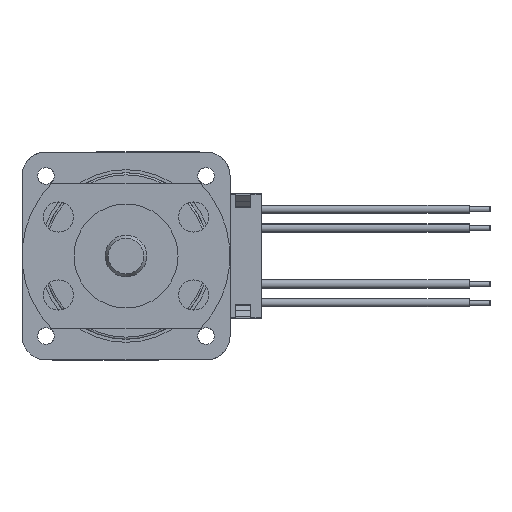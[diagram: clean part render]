
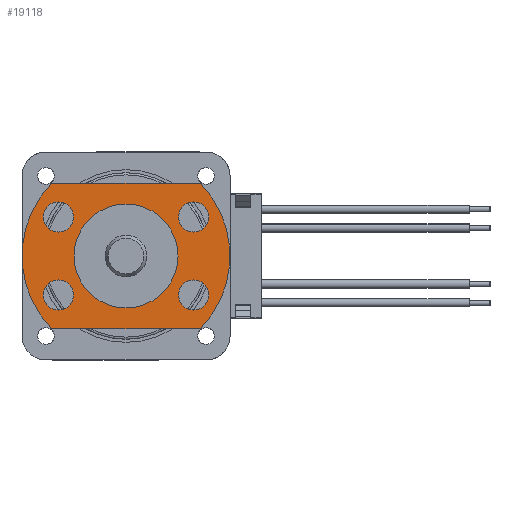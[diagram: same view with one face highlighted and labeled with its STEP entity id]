
A CAD part, left-side view. The second image highlights one B-rep face of the part: STEP entity #19118.
In plain terms, the highlighted planar face has unit normal (-1, 0, 0).
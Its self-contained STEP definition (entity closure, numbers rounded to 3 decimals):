
#18840=CARTESIAN_POINT('',(-14.9,7.141,-7.));
#18841=VERTEX_POINT('',#18840);
#18848=CARTESIAN_POINT('',(-14.9,7.141,7.));
#18849=VERTEX_POINT('',#18848);
#18850=CARTESIAN_POINT('',(-14.9,0.,0.));
#18851=DIRECTION('',(0.,0.714,-0.7));
#18852=DIRECTION('',(1.,0.,0.));
#18853=AXIS2_PLACEMENT_3D('',#18850,#18852,#18851);
#18854=CIRCLE('',#18853,10.);
#18855=EDGE_CURVE('',#18841,#18849,#18854,.T.);
#18879=CARTESIAN_POINT('',(-14.9,-7.141,-7.));
#18880=VERTEX_POINT('',#18879);
#18887=CARTESIAN_POINT('',(-14.9,-7.141,-7.));
#18888=DIRECTION('',(0.,1.,0.));
#18889=VECTOR('',#18888,14.283);
#18890=LINE('',#18887,#18889);
#18891=EDGE_CURVE('',#18880,#18841,#18890,.T.);
#18911=CARTESIAN_POINT('',(-14.9,-7.141,7.));
#18912=VERTEX_POINT('',#18911);
#18919=CARTESIAN_POINT('',(-14.9,0.,0.));
#18920=DIRECTION('',(0.,-0.714,0.7));
#18921=DIRECTION('',(1.,0.,0.));
#18922=AXIS2_PLACEMENT_3D('',#18919,#18921,#18920);
#18923=CIRCLE('',#18922,10.);
#18924=EDGE_CURVE('',#18912,#18880,#18923,.T.);
#18942=CARTESIAN_POINT('',(-14.9,7.141,7.));
#18943=DIRECTION('',(0.,-1.,0.));
#18944=VECTOR('',#18943,14.283);
#18945=LINE('',#18942,#18944);
#18946=EDGE_CURVE('',#18849,#18912,#18945,.T.);
#18966=CARTESIAN_POINT('',(-14.9,6.495,-2.3));
#18967=VERTEX_POINT('',#18966);
#18974=CARTESIAN_POINT('',(-14.9,6.495,-3.75));
#18975=DIRECTION('',(-0.,0.,1.));
#18976=DIRECTION('',(-1.,0.,0.));
#18977=AXIS2_PLACEMENT_3D('',#18974,#18976,#18975);
#18978=CIRCLE('',#18977,1.45);
#18979=EDGE_CURVE('',#18967,#18967,#18978,.T.);
#18999=CARTESIAN_POINT('',(-14.9,6.495,5.2));
#19000=VERTEX_POINT('',#18999);
#19007=CARTESIAN_POINT('',(-14.9,6.495,3.75));
#19008=DIRECTION('',(0.,0.,1.));
#19009=DIRECTION('',(-1.,0.,0.));
#19010=AXIS2_PLACEMENT_3D('',#19007,#19009,#19008);
#19011=CIRCLE('',#19010,1.45);
#19012=EDGE_CURVE('',#19000,#19000,#19011,.T.);
#19032=CARTESIAN_POINT('',(-14.9,-6.495,-2.3));
#19033=VERTEX_POINT('',#19032);
#19040=CARTESIAN_POINT('',(-14.9,-6.495,-3.75));
#19041=DIRECTION('',(-0.,0.,1.));
#19042=DIRECTION('',(-1.,0.,0.));
#19043=AXIS2_PLACEMENT_3D('',#19040,#19042,#19041);
#19044=CIRCLE('',#19043,1.45);
#19045=EDGE_CURVE('',#19033,#19033,#19044,.T.);
#19065=CARTESIAN_POINT('',(-14.9,-6.495,5.2));
#19066=VERTEX_POINT('',#19065);
#19073=CARTESIAN_POINT('',(-14.9,-6.495,3.75));
#19074=DIRECTION('',(0.,0.,1.));
#19075=DIRECTION('',(-1.,0.,0.));
#19076=AXIS2_PLACEMENT_3D('',#19073,#19075,#19074);
#19077=CIRCLE('',#19076,1.45);
#19078=EDGE_CURVE('',#19066,#19066,#19077,.T.);
#19084=CARTESIAN_POINT('',(-14.9,0.,7.003));
#19085=DIRECTION('',(0.,0.,1.));
#19086=DIRECTION('',(-1.,0.,0.));
#19087=AXIS2_PLACEMENT_3D('',#19084,#19086,#19085);
#19088=PLANE('',#19087);
#19089=ORIENTED_EDGE('',*,*,#18855,.F.);
#19090=ORIENTED_EDGE('',*,*,#18891,.F.);
#19091=ORIENTED_EDGE('',*,*,#18924,.F.);
#19092=ORIENTED_EDGE('',*,*,#18946,.F.);
#19093=EDGE_LOOP('',(#19089,#19090,#19091,#19092));
#19094=FACE_OUTER_BOUND('',#19093,.T.);
#19095=CARTESIAN_POINT('',(-14.9,0.,5.));
#19096=VERTEX_POINT('',#19095);
#19097=CARTESIAN_POINT('',(-14.9,0.,0.));
#19098=DIRECTION('',(-0.,0.,1.));
#19099=DIRECTION('',(1.,0.,0.));
#19100=AXIS2_PLACEMENT_3D('',#19097,#19099,#19098);
#19101=CIRCLE('',#19100,5.);
#19102=EDGE_CURVE('',#19096,#19096,#19101,.T.);
#19103=ORIENTED_EDGE('E1295',*,*,#19102,.T.);
#19104=EDGE_LOOP('',(#19103));
#19105=FACE_BOUND('',#19104,.T.);
#19106=ORIENTED_EDGE('',*,*,#18979,.F.);
#19107=EDGE_LOOP('',(#19106));
#19108=FACE_BOUND('',#19107,.T.);
#19109=ORIENTED_EDGE('',*,*,#19012,.F.);
#19110=EDGE_LOOP('',(#19109));
#19111=FACE_BOUND('',#19110,.T.);
#19112=ORIENTED_EDGE('',*,*,#19045,.F.);
#19113=EDGE_LOOP('',(#19112));
#19114=FACE_BOUND('',#19113,.T.);
#19115=ORIENTED_EDGE('',*,*,#19078,.F.);
#19116=EDGE_LOOP('',(#19115));
#19117=FACE_BOUND('',#19116,.T.);
#19118=ADVANCED_FACE('F435',(#19094,#19105,#19108,#19111,#19114,#19117),#19088,.T.);
